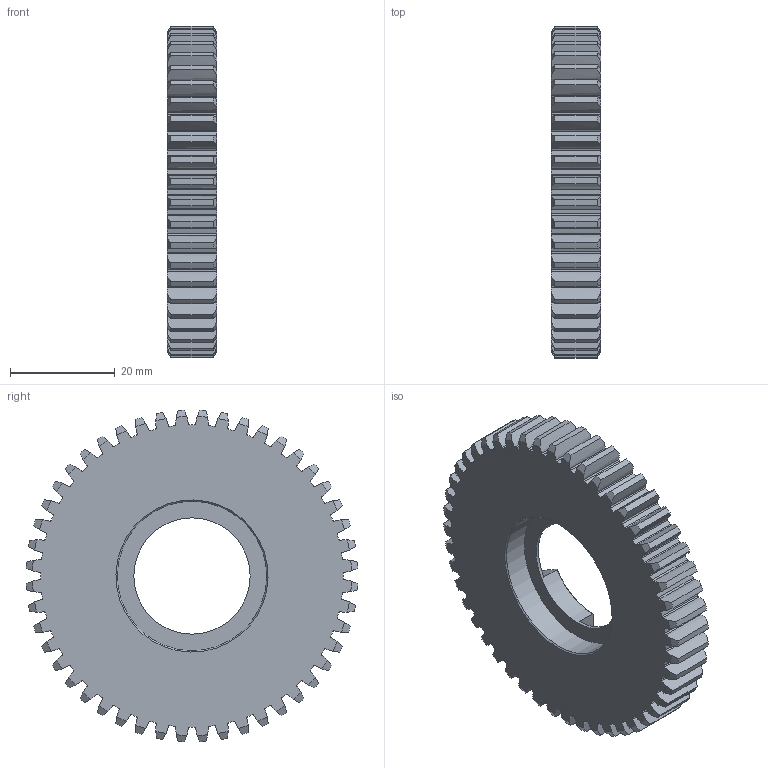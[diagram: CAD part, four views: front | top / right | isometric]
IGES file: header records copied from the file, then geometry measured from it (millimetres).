
Global section: file name: No Iges File Name specified; native system: AutoDesk Inventor R6.0; preprocessor: AutoDesk Inventor Iges Exporter R6.0; author: No Author specified; organization: No Organization specified; date: 20080103.190140; units: inch
Bounding box: 9.53 x 63.43 x 63.43 mm (x, y, z)
Surface area: 10295.4 mm2 (no closed solid volume)
Topology: 0 solids, 0 shells, 407 faces, 2411 edges, 2407 vertices
Faces by surface type: revolution 393, plane 12, bspline 2
